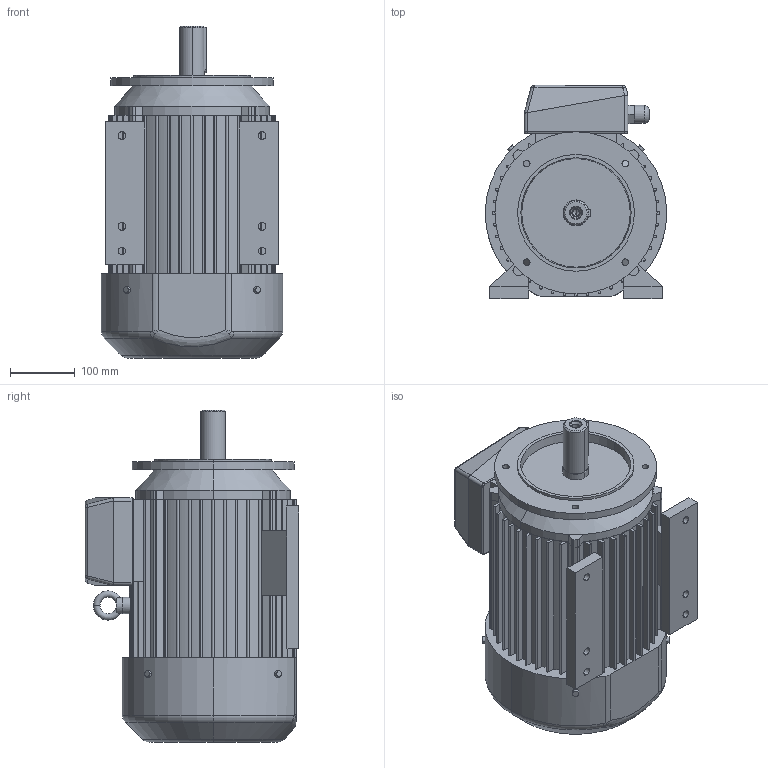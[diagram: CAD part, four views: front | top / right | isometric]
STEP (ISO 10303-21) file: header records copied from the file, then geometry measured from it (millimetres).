
FILE_DESCRIPTION (( 'STEP AP203' ), '1' );
FILE_NAME ('3SIEL132M-B14-C1.STEP', '2014-10-01T06:17:20', ( '' ), ( '' ), 'SwSTEP 2.0', 'SolidWorks 2003064', '' );
FILE_SCHEMA (( 'CONFIG_CONTROL_DESIGN' ));
Length unit declared in the file: millimetre
Products named in the file (1): 3SIEL132M-B14-C1
Bounding box: 280 x 329 x 512 mm (x, y, z)
Volume: 23685191.5 mm3; surface area: 1039803.2 mm2
Topology: 16 solids, 16 shells, 426 faces, 1105 edges, 708 vertices
Faces by surface type: cylinder 194, plane 191, torus 16, cone 16, bspline 5, sphere 4
Entity records: 16821 total; most frequent: CARTESIAN_POINT 6081, DIRECTION 2316, ORIENTED_EDGE 2194, EDGE_CURVE 1097, AXIS2_PLACEMENT_3D 842, VERTEX_POINT 708, LINE 632, VECTOR 632
